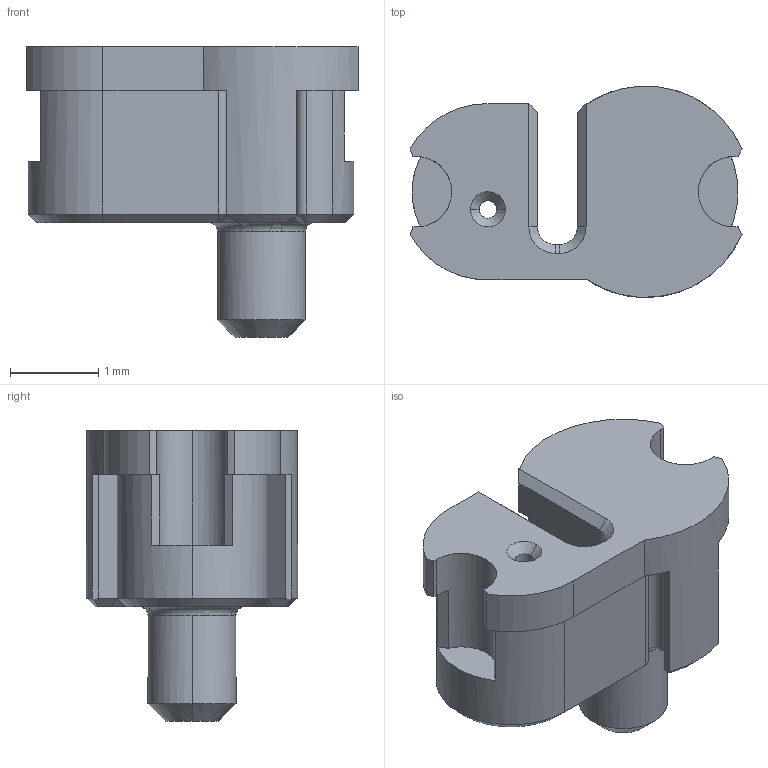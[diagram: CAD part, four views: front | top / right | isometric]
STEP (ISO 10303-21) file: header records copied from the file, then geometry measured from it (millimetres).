
FILE_DESCRIPTION (( 'STEP AP214' ), '1' );
FILE_NAME ('TRL-0048-OFF1-A.STEP', '2021-06-25T20:33:53', ( '' ), ( '' ), 'SwSTEP 2.0', 'SolidWorks 2016', '' );
FILE_SCHEMA (( 'AUTOMOTIVE_DESIGN' ));
Length unit declared in the file: millimetre
Products named in the file (1): TRL-0048-OFF1-A
Bounding box: 3.77 x 2.4 x 3.3 mm (x, y, z)
Volume: 11.2 mm3; surface area: 48.7 mm2
Topology: 1 solids, 1 shells, 134 faces, 359 edges, 223 vertices
Faces by surface type: plane 61, cylinder 28, cone 25, bspline 15, torus 5
Entity records: 5033 total; most frequent: CARTESIAN_POINT 1728, ORIENTED_EDGE 710, DIRECTION 670, EDGE_CURVE 355, AXIS2_PLACEMENT_3D 243, VERTEX_POINT 223, VECTOR 184, LINE 184
